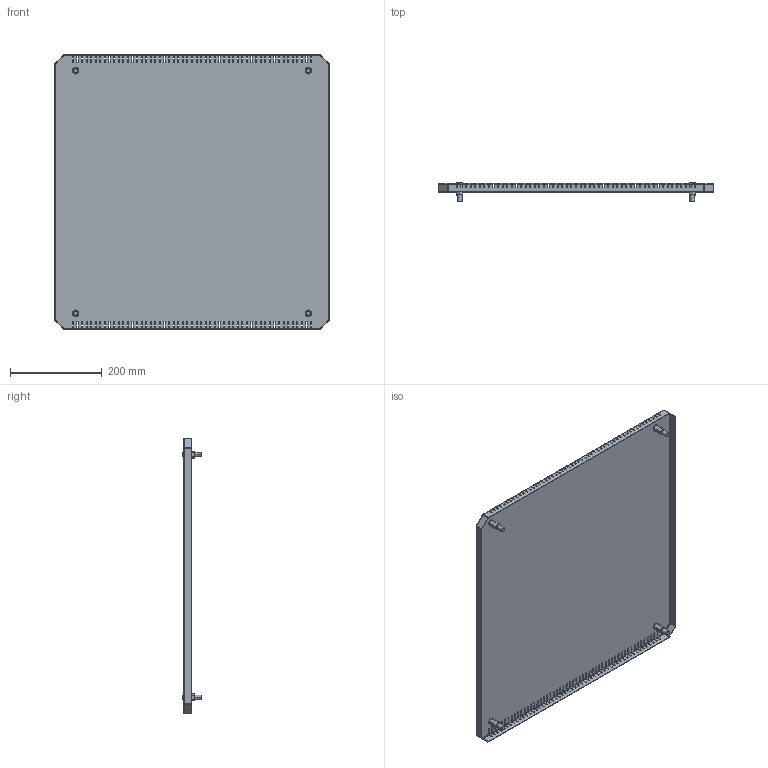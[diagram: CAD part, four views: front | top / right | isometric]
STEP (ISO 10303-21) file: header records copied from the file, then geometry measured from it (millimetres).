
FILE_DESCRIPTION (( 'STEP AP203' ), '1' );
FILE_NAME ('R 60.60 I Ïàíåëü òåëåêîììóíèêàöèîííàÿ ïîòîëî÷íàÿ.STEP', '2013-01-12T08:36:23', ( 'System' ), ( '' ), 'SwSTEP 2.0', 'SolidWorks 2012', '' );
FILE_SCHEMA (( 'CONFIG_CONTROL_DESIGN' ));
Products named in the file (1): R 60.60 I Ïàíåëü òåëåêîììóíèêàöèîííàÿ ïîòîëî÷íàÿ
Bounding box: 600 x 42.72 x 600 mm (x, y, z)
Volume: 486605.9 mm3; surface area: 799302 mm2
Topology: 5 solids, 9 shells, 1354 faces, 3632 edges, 2088 vertices
Faces by surface type: plane 990, cylinder 268, cone 56, bspline 16, torus 16, sphere 8
Entity records: 42229 total; most frequent: CARTESIAN_POINT 8455, ORIENTED_EDGE 7232, DIRECTION 6816, EDGE_CURVE 3616, VECTOR 2858, LINE 2858, VERTEX_POINT 2088, AXIS2_PLACEMENT_3D 1979
